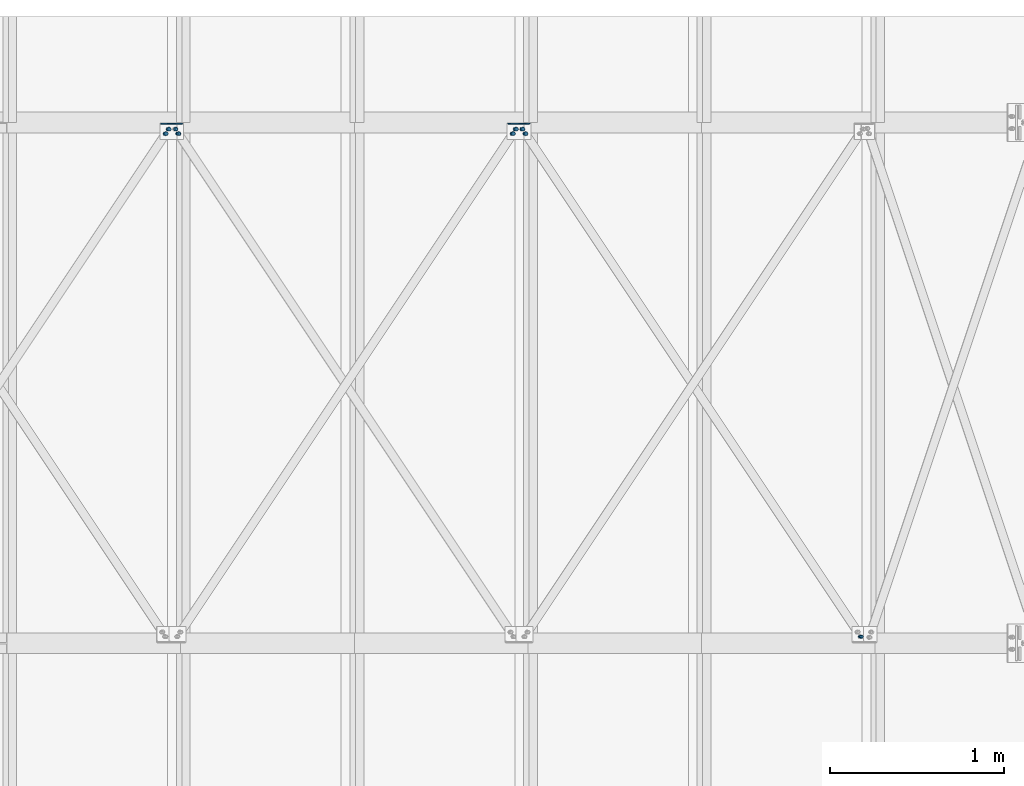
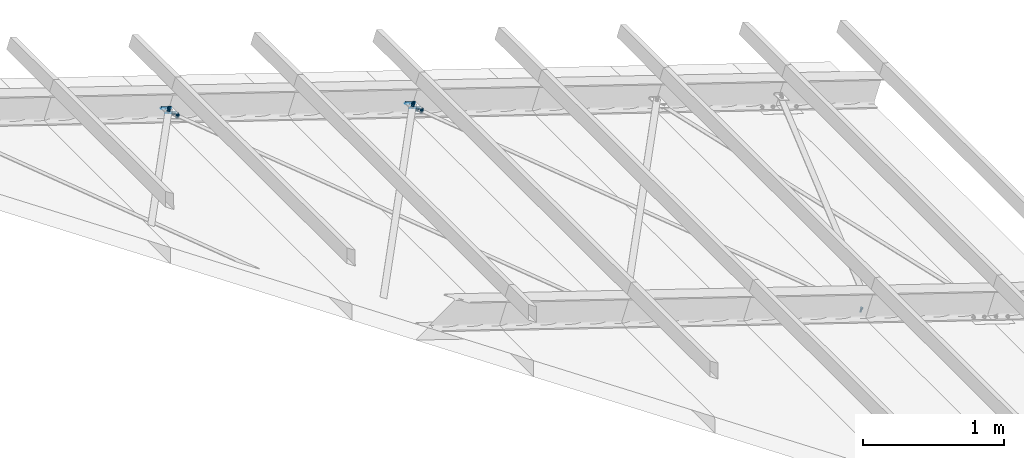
# One storey, part 46 of 53: 33 mechanical fasteners, 8 fasteners.
"""IFC4 building model written with IfcOpenShell, lengths in metres."""

from ifc_helpers import new_model, si_unit, frame, origin_with_axes, place, context, project, spatial, polyline, outline, extrude, type_object, element, save


model = new_model("IFC4")

# Units and contexts
model_context = context("Model", 3, precision=1e-05, world=origin_with_axes())
ifc_project = project(units=[si_unit("LENGTHUNIT", "METRE"), si_unit("AREAUNIT", "SQUARE_METRE"), si_unit("VOLUMEUNIT", "CUBIC_METRE"), si_unit("MASSUNIT", "GRAM", prefix="KILO"), si_unit("TIMEUNIT", "SECOND"), si_unit("PLANEANGLEUNIT", "RADIAN"), si_unit("SOLIDANGLEUNIT", "STERADIAN"), si_unit("THERMODYNAMICTEMPERATUREUNIT", "DEGREE_CELSIUS")], contexts=[model_context])

# Site, building, storey
placement_1 = place(None, origin_with_axes())
site = spatial("IfcSite", under=ifc_project, at=placement_1, Name="Italia", CompositionType="ELEMENT")
building = spatial("IfcBuilding", under=site, at=placement_1, Name="Capannone", CompositionType="ELEMENT")
storey_placement = place(None, frame((0.0, 0.0, 5.550000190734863), z_axis=(0.0, 0.0, 1.0), x_axis=(1.0, 0.0, 0.0)))
storey = spatial("IfcBuildingStorey", under=building, at=storey_placement, Name="Storey 1", CompositionType="ELEMENT", Elevation=5.550000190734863)

# Mechanical fasteners
mechanical_fastener_type_1 = type_object("IfcMechanicalFastenerType", Name="Collegamento -1056_-1090", PredefinedType="BOLT")
placement_2 = place(placement_1, origin_with_axes())
mechanical_fastener_1_placement = place(placement_2, origin_with_axes())
element("IfcMechanicalFastener", 1, at=mechanical_fastener_1_placement, inside=storey, type_object=mechanical_fastener_type_1, Name="Collegamento -1056_-1090", NominalDiameter=0.0119996, context=model_context, shape_type="SweptSolid", body=[
    extrude(outline(polyline([(0.0, 0.0), (-0.00982285, -0.00689316), (-0.00876427, -0.0188475), (0.0021162, -0.0239077), (0.011939, -0.0170145), (0.0108814, -0.0050602), (0.0, 0.0)])), frame((12.9829, 12.0369, 5.94999), z_axis=(0.312231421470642, 0.0, 0.950006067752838), x_axis=(0.0, 1.0, 0.0)), (0.0, 0.0, 1.0), 0.00959993),
])
mechanical_fastener_type_2 = type_object("IfcMechanicalFastenerType", Name="Collegamento -1056_-1090", PredefinedType="BOLT")
mechanical_fastener_2_placement = place(placement_2, origin_with_axes())
element("IfcMechanicalFastener", 2, at=mechanical_fastener_2_placement, inside=storey, type_object=mechanical_fastener_type_2, Name="Collegamento -1056_-1090", NominalDiameter=0.012, context=model_context, shape_type="SweptSolid", body=[
    extrude(outline(polyline([(0.0, 0.0), (-0.000204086, -0.00155354), (-0.000802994, -0.00300121), (-0.00175667, -0.0042429), (-0.00299931, -0.00519562), (-0.00444698, -0.00579548), (-0.00599957, -0.00600052), (-0.00755215, -0.00579548), (-0.00899982, -0.00519562), (-0.0102425, -0.0042429), (-0.0111961, -0.00300121), (-0.011795, -0.00155354), (-0.0119991, 0.0), (-0.011795, 0.00155258), (-0.0111961, 0.00300026), (-0.0102425, 0.00424194), (-0.00899982, 0.00519562), (-0.00755215, 0.00579548), (-0.00599957, 0.00599957), (-0.00444698, 0.00579548), (-0.00299931, 0.00519562), (-0.00175667, 0.00424194), (-0.000802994, 0.00300026), (-0.000204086, 0.00155258), (0.0, 0.0)])), frame((12.9855, 12.0439, 5.91965), z_axis=(0.312158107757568, 0.0, 0.950030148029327), x_axis=(0.0, 1.0, 0.0)), (0.0, 0.0, 1.0), 0.028),
])
mechanical_fastener_type_3 = type_object("IfcMechanicalFastenerType", Name="Collegamento -1090_-1056", PredefinedType="BOLT")
mechanical_fastener_3_placement = place(placement_2, origin_with_axes())
element("IfcMechanicalFastener", 3, at=mechanical_fastener_3_placement, inside=storey, type_object=mechanical_fastener_type_3, Name="Collegamento -1090_-1056", NominalDiameter=0.0119997, context=model_context, shape_type="SweptSolid", body=[
    extrude(outline(polyline([(0.0, 0.0), (-0.00982285, 0.00689316), (-0.0207043, 0.00183105), (-0.0217619, -0.0101223), (-0.011939, -0.0170155), (-0.00105858, -0.0119543), (0.0, 0.0)])), frame((11.0369, 14.9512, 6.57886), z_axis=(-0.312127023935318, 0.0, -0.950040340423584), x_axis=(0.0, -1.0, 0.0)), (0.0, 0.0, 1.0), 0.00960008),
])
mechanical_fastener_type_4 = type_object("IfcMechanicalFastenerType", Name="Collegamento -1090_-1056", PredefinedType="BOLT")
mechanical_fastener_4_placement = place(placement_2, origin_with_axes())
element("IfcMechanicalFastener", 4, at=mechanical_fastener_4_placement, inside=storey, type_object=mechanical_fastener_type_4, Name="Collegamento -1090_-1056", NominalDiameter=0.012, context=model_context, shape_type="SweptSolid", body=[
    extrude(outline(polyline([(0.0, 0.0), (-0.000204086, -0.00155354), (-0.000802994, -0.00300026), (-0.00175667, -0.00424194), (-0.00299931, -0.00519562), (-0.00444698, -0.00579548), (-0.00599957, -0.00599957), (-0.00755215, -0.00579548), (-0.00899982, -0.00519562), (-0.0102425, -0.00424194), (-0.0111961, -0.00300026), (-0.011795, -0.00155354), (-0.0119991, 0.0), (-0.011795, 0.00155354), (-0.0111961, 0.00300026), (-0.0102425, 0.00424194), (-0.00899982, 0.00519562), (-0.00755215, 0.00579548), (-0.00599957, 0.00599957), (-0.00444698, 0.00579548), (-0.00299931, 0.00519562), (-0.00175667, 0.00424194), (-0.000802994, 0.00300026), (-0.000204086, 0.00155354), (0.0, 0.0)])), frame((11.0504, 14.9561, 6.60389), z_axis=(-0.312127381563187, 0.0, -0.950040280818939), x_axis=(0.0, -1.0, 0.0)), (0.0, 0.0, 1.0), 0.0279997),
])
mechanical_fastener_type_5 = type_object("IfcMechanicalFastenerType", Name="Collegamento -1090_-1056", PredefinedType="BOLT")
mechanical_fastener_5_placement = place(placement_2, origin_with_axes())
element("IfcMechanicalFastener", 5, at=mechanical_fastener_5_placement, inside=storey, type_object=mechanical_fastener_type_5, Name="Collegamento -1090_-1056", NominalDiameter=0.0119997, context=model_context, shape_type="SweptSolid", body=[
    extrude(outline(polyline([(0.0, 0.0), (-0.00982285, 0.00689411), (-0.0207043, 0.00183392), (-0.0217619, -0.0101204), (-0.011939, -0.0170135), (-0.00105858, -0.0119534), (0.0, 0.0)])), frame((11.0436, 14.9512, 6.59939), z_axis=(-0.312127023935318, 0.0, -0.950040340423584), x_axis=(0.0, -1.0, 0.0)), (0.0, 0.0, 1.0), 0.00960008),
])
mechanical_fastener_type_6 = type_object("IfcMechanicalFastenerType", Name="Collegamento -1090_-1056", PredefinedType="BOLT")
mechanical_fastener_6_placement = place(placement_2, origin_with_axes())
element("IfcMechanicalFastener", 6, at=mechanical_fastener_6_placement, inside=storey, type_object=mechanical_fastener_type_6, Name="Collegamento -1090_-1056", NominalDiameter=0.024, context=model_context, shape_type="SweptSolid", body=[
    extrude(outline(polyline([(0.0, 0.0), (-0.000409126, -0.00310612), (-0.00160789, -0.00599957), (-0.00351524, -0.00848484), (-0.00600052, -0.0103922), (-0.00889397, -0.01159), (-0.0120001, -0.0120001), (-0.0151062, -0.01159), (-0.0179996, -0.0103922), (-0.0204849, -0.00848484), (-0.0223923, -0.00599957), (-0.023591, -0.00310612), (-0.0240002, 0.0), (-0.023591, 0.00310612), (-0.0223923, 0.00600052), (-0.0204849, 0.00848484), (-0.0179996, 0.0103922), (-0.0151062, 0.011591), (-0.0120001, 0.0120001), (-0.00889397, 0.011591), (-0.00600052, 0.0103922), (-0.00351524, 0.00848484), (-0.00160789, 0.00600052), (-0.000409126, 0.00310612), (0.0, 0.0)])), frame((11.0454, 14.9501, 6.58869), z_axis=(-0.312362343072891, 0.0, -0.94996303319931), x_axis=(0.0, -1.0, 0.0)), (0.0, 0.0, 1.0), 0.00199978),
])
mechanical_fastener_type_7 = type_object("IfcMechanicalFastenerType", Name="Collegamento -1090_-1056", PredefinedType="BOLT")
mechanical_fastener_7_placement = place(placement_2, origin_with_axes())
element("IfcMechanicalFastener", 7, at=mechanical_fastener_7_placement, inside=storey, type_object=mechanical_fastener_type_7, Name="Collegamento -1090_-1056", NominalDiameter=0.0119997, context=model_context, shape_type="SweptSolid", body=[
    extrude(outline(polyline([(0.0, 0.0), (-0.00982285, 0.00689411), (-0.0207033, 0.00183296), (-0.0217619, -0.0101204), (-0.011939, -0.0170135), (-0.00105762, -0.0119534), (0.0, 0.0)])), frame((11.0543, 14.925, 6.57313), z_axis=(-0.312127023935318, 0.0, -0.950040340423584), x_axis=(0.0, -1.0, 0.0)), (0.0, 0.0, 1.0), 0.00960008),
])
mechanical_fastener_type_8 = type_object("IfcMechanicalFastenerType", Name="Collegamento -1090_-1056", PredefinedType="BOLT")
mechanical_fastener_8_placement = place(placement_2, origin_with_axes())
element("IfcMechanicalFastener", 8, at=mechanical_fastener_8_placement, inside=storey, type_object=mechanical_fastener_type_8, Name="Collegamento -1090_-1056", NominalDiameter=0.012, context=model_context, shape_type="SweptSolid", body=[
    extrude(outline(polyline([(0.0, 0.0), (-0.000204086, -0.00155354), (-0.000802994, -0.00300121), (-0.00175667, -0.0042429), (-0.00299931, -0.00519657), (-0.00444698, -0.00579548), (-0.00599957, -0.00600052), (-0.00755215, -0.00579548), (-0.00899982, -0.00519657), (-0.0102425, -0.0042429), (-0.0111961, -0.00300121), (-0.011795, -0.00155354), (-0.0119991, 0.0), (-0.011795, 0.00155163), (-0.0111961, 0.00299931), (-0.0102425, 0.00424194), (-0.00899982, 0.00519562), (-0.00755215, 0.00579453), (-0.00599957, 0.00599957), (-0.00444698, 0.00579453), (-0.00299931, 0.00519562), (-0.00175667, 0.00424194), (-0.000802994, 0.00299931), (-0.000204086, 0.00155163), (0.0, 0.0)])), frame((11.0679, 14.9299, 6.59815), z_axis=(-0.312158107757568, 0.0, -0.950030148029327), x_axis=(0.0, -1.0, 0.0)), (0.0, 0.0, 1.0), 0.028),
])
mechanical_fastener_type_9 = type_object("IfcMechanicalFastenerType", Name="Collegamento -1090_-1056", PredefinedType="BOLT")
mechanical_fastener_9_placement = place(placement_2, origin_with_axes())
element("IfcMechanicalFastener", 9, at=mechanical_fastener_9_placement, inside=storey, type_object=mechanical_fastener_type_9, Name="Collegamento -1090_-1056", NominalDiameter=0.0119997, context=model_context, shape_type="SweptSolid", body=[
    extrude(outline(polyline([(0.0, 0.0), (-0.00982285, 0.00689316), (-0.0207033, 0.00183201), (-0.0217619, -0.0101213), (-0.011939, -0.0170145), (-0.00105762, -0.0119543), (0.0, 0.0)])), frame((11.0611, 14.925, 6.59365), z_axis=(-0.312127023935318, 0.0, -0.950040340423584), x_axis=(0.0, -1.0, 0.0)), (0.0, 0.0, 1.0), 0.00960008),
])
mechanical_fastener_type_10 = type_object("IfcMechanicalFastenerType", Name="Collegamento -1090_-1056", PredefinedType="BOLT")
mechanical_fastener_10_placement = place(placement_2, origin_with_axes())
element("IfcMechanicalFastener", 10, at=mechanical_fastener_10_placement, inside=storey, type_object=mechanical_fastener_type_10, Name="Collegamento -1090_-1056", NominalDiameter=0.024, context=model_context, shape_type="SweptSolid", body=[
    extrude(outline(polyline([(0.0, 0.0), (-0.000409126, -0.00310612), (-0.00160789, -0.00600052), (-0.00351524, -0.00848579), (-0.00600052, -0.0103931), (-0.00889397, -0.0115919), (-0.0120001, -0.0120001), (-0.0151062, -0.0115919), (-0.0179996, -0.0103931), (-0.0204849, -0.00848579), (-0.0223923, -0.00600052), (-0.023591, -0.00310612), (-0.0240002, 0.0), (-0.023591, 0.00310516), (-0.0223923, 0.00599957), (-0.0204849, 0.00848484), (-0.0179996, 0.0103912), (-0.0151062, 0.0115919), (-0.0120001, 0.0119991), (-0.00889397, 0.0115919), (-0.00600052, 0.0103912), (-0.00351524, 0.00848484), (-0.00160789, 0.00599957), (-0.000409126, 0.00310516), (0.0, 0.0)])), frame((11.0629, 14.9239, 6.58295), z_axis=(-0.312220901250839, 0.0, -0.950009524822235), x_axis=(0.0, -1.0, 0.0)), (0.0, 0.0, 1.0), 0.00200069),
])

# Fasteners
fastener_type_1 = type_object("IfcFastenerType", Name="Collegamento -1090_-1056", PredefinedType="WELD")
fastener_1_placement = place(placement_2, origin_with_axes())
element("IfcFastener", 11, at=fastener_1_placement, inside=storey, type_object=fastener_type_1, Name="Collegamento -1090_-1056", context=model_context, shape_type="SweptSolid", body=[
    extrude(outline(polyline([(0.0, 0.0), (0.00717258, -0.00695801), (0.0, -0.00695801), (0.0, 0.0)])), frame((11.0878, 14.9969, 6.57467), z_axis=(-0.950032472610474, 0.0, 0.312151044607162), x_axis=(0.0, -1.0, 0.0)), (0.0, 0.0, 1.0), 0.0881034),
])
fastener_type_2 = type_object("IfcFastenerType", Name="Collegamento -1090_-1056", PredefinedType="WELD")
fastener_2_placement = place(placement_2, origin_with_axes())
element("IfcFastener", 12, at=fastener_2_placement, inside=storey, type_object=fastener_type_2, Name="Collegamento -1090_-1056", context=model_context, shape_type="SweptSolid", body=[
    extrude(outline(polyline([(0.0, 0.0), (-0.00717258, 0.00695801), (0.0, 0.00695801), (0.0, 0.0)])), frame((10.9982, 14.9969, 6.5843), z_axis=(0.950030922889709, 0.0, -0.312155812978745), x_axis=(0.0, 1.0, 0.0)), (0.0, 0.0, 1.0), 0.0881006),
])

# Mechanical fasteners
mechanical_fastener_type_11 = type_object("IfcMechanicalFastenerType", Name="Collegamento -1090_-1120", PredefinedType="BOLT")
mechanical_fastener_11_placement = place(placement_2, origin_with_axes())
element("IfcMechanicalFastener", 13, at=mechanical_fastener_11_placement, inside=storey, type_object=mechanical_fastener_type_11, Name="Collegamento -1090_-1120", NominalDiameter=0.0119995, context=model_context, shape_type="SweptSolid", body=[
    extrude(outline(polyline([(0.0, 0.0), (-0.00982285, -0.00689316), (-0.00876427, -0.0188456), (0.0021162, -0.0239058), (0.011939, -0.0170135), (0.0108814, -0.0050602), (0.0, 0.0)])), frame((10.9922, 14.9631, 6.63563), z_axis=(-0.312141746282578, 0.0, -0.950035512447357), x_axis=(0.0, -1.0, 0.0)), (0.0, 0.0, 1.0), 0.00959963),
])
mechanical_fastener_type_12 = type_object("IfcMechanicalFastenerType", Name="Collegamento -1090_-1120", PredefinedType="BOLT")
mechanical_fastener_12_placement = place(placement_2, origin_with_axes())
element("IfcMechanicalFastener", 14, at=mechanical_fastener_12_placement, inside=storey, type_object=mechanical_fastener_type_12, Name="Collegamento -1090_-1120", NominalDiameter=0.012, context=model_context, shape_type="SweptSolid", body=[
    extrude(outline(polyline([(0.0, 0.0), (-0.000204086, -0.00155258), (-0.000802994, -0.00300026), (-0.00175667, -0.00424194), (-0.00299931, -0.00519562), (-0.00444698, -0.00579453), (-0.00599957, -0.00599957), (-0.00755215, -0.00579453), (-0.00899982, -0.00519562), (-0.0102425, -0.00424194), (-0.0111961, -0.00300026), (-0.011795, -0.00155258), (-0.0119991, 0.0), (-0.011795, 0.00155258), (-0.0111961, 0.00300026), (-0.0102425, 0.00424194), (-0.00899982, 0.00519657), (-0.00755215, 0.00579548), (-0.00599957, 0.00600052), (-0.00444698, 0.00579548), (-0.00299931, 0.00519657), (-0.00175667, 0.00424194), (-0.000802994, 0.00300026), (-0.000204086, 0.00155258), (0.0, 0.0)])), frame((11.0123, 14.9561, 6.6585), z_axis=(-0.312127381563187, 0.0, -0.950040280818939), x_axis=(0.0, -1.0, 0.0)), (0.0, 0.0, 1.0), 0.0279997),
])
mechanical_fastener_type_13 = type_object("IfcMechanicalFastenerType", Name="Collegamento -1090_-1120", PredefinedType="BOLT")
mechanical_fastener_13_placement = place(placement_2, origin_with_axes())
element("IfcMechanicalFastener", 15, at=mechanical_fastener_13_placement, inside=storey, type_object=mechanical_fastener_type_13, Name="Collegamento -1090_-1120", NominalDiameter=0.0119995, context=model_context, shape_type="SweptSolid", body=[
    extrude(outline(polyline([(0.0, 0.0), (-0.00982285, -0.00689316), (-0.00876427, -0.0188456), (0.0021162, -0.0239058), (0.011939, -0.0170135), (0.0108814, -0.00505924), (0.0, 0.0)])), frame((10.999, 14.9631, 6.65615), z_axis=(-0.312141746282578, 0.0, -0.950035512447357), x_axis=(0.0, -1.0, 0.0)), (0.0, 0.0, 1.0), 0.00959963),
])
mechanical_fastener_type_14 = type_object("IfcMechanicalFastenerType", Name="Collegamento -1090_-1120", PredefinedType="BOLT")
mechanical_fastener_14_placement = place(placement_2, origin_with_axes())
element("IfcMechanicalFastener", 16, at=mechanical_fastener_14_placement, inside=storey, type_object=mechanical_fastener_type_14, Name="Collegamento -1090_-1120", NominalDiameter=0.024, context=model_context, shape_type="SweptSolid", body=[
    extrude(outline(polyline([(0.0, 0.0), (-0.000409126, -0.00310612), (-0.00160789, -0.00600052), (-0.00351524, -0.00848579), (-0.00600052, -0.0103912), (-0.00889397, -0.011591), (-0.0120001, -0.0120001), (-0.0151062, -0.011591), (-0.0179996, -0.0103912), (-0.0204849, -0.00848579), (-0.0223923, -0.00600052), (-0.023591, -0.00310612), (-0.0240002, 0.0), (-0.023591, 0.00310612), (-0.0223923, 0.00599957), (-0.0204849, 0.00848484), (-0.0179996, 0.0103922), (-0.0151062, 0.011591), (-0.0120001, 0.0120001), (-0.00889397, 0.011591), (-0.00600052, 0.0103922), (-0.00351524, 0.00848484), (-0.00160789, 0.00599957), (-0.000409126, 0.00310612), (0.0, 0.0)])), frame((11.0073, 14.9501, 6.6433), z_axis=(-0.312792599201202, 0.0, -0.949821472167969), x_axis=(0.0, -1.0, 0.0)), (0.0, 0.0, 1.0), 0.00200008),
])
mechanical_fastener_type_15 = type_object("IfcMechanicalFastenerType", Name="Collegamento -1090_-1120", PredefinedType="BOLT")
mechanical_fastener_15_placement = place(placement_2, origin_with_axes())
element("IfcMechanicalFastener", 17, at=mechanical_fastener_15_placement, inside=storey, type_object=mechanical_fastener_type_15, Name="Collegamento -1090_-1120", NominalDiameter=0.0119994, context=model_context, shape_type="SweptSolid", body=[
    extrude(outline(polyline([(0.0, 0.0), (-0.00982285, -0.00689316), (-0.00876522, -0.0188456), (0.0021162, -0.0239058), (0.011939, -0.0170135), (0.0108805, -0.0050602), (0.0, 0.0)])), frame((10.9748, 14.9369, 6.64137), z_axis=(-0.312141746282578, 0.0, -0.950035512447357), x_axis=(0.0, -1.0, 0.0)), (0.0, 0.0, 1.0), 0.00959963),
])
mechanical_fastener_type_16 = type_object("IfcMechanicalFastenerType", Name="Collegamento -1090_-1120", PredefinedType="BOLT")
mechanical_fastener_16_placement = place(placement_2, origin_with_axes())
element("IfcMechanicalFastener", 18, at=mechanical_fastener_16_placement, inside=storey, type_object=mechanical_fastener_type_16, Name="Collegamento -1090_-1120", NominalDiameter=0.012, context=model_context, shape_type="SweptSolid", body=[
    extrude(outline(polyline([(0.0, 0.0), (-0.000204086, -0.00155258), (-0.000802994, -0.00300026), (-0.00175667, -0.00424194), (-0.00299931, -0.00519562), (-0.00444698, -0.00579453), (-0.00599957, -0.00600052), (-0.00755215, -0.00579453), (-0.00899982, -0.00519562), (-0.0102425, -0.00424194), (-0.0111961, -0.00300026), (-0.011795, -0.00155258), (-0.0119991, 0.0), (-0.011795, 0.00155258), (-0.0111961, 0.00300026), (-0.0102425, 0.00424194), (-0.00899982, 0.00519657), (-0.00755215, 0.00579548), (-0.00599957, 0.00600052), (-0.00444698, 0.00579548), (-0.00299931, 0.00519657), (-0.00175667, 0.00424194), (-0.000802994, 0.00300026), (-0.000204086, 0.00155258), (0.0, 0.0)])), frame((10.9949, 14.9299, 6.66424), z_axis=(-0.312188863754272, 0.0, -0.95002007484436), x_axis=(0.0, -1.0, 0.0)), (0.0, 0.0, 1.0), 0.0280003),
])
mechanical_fastener_type_17 = type_object("IfcMechanicalFastenerType", Name="Collegamento -1090_-1120", PredefinedType="BOLT")
mechanical_fastener_17_placement = place(placement_2, origin_with_axes())
element("IfcMechanicalFastener", 19, at=mechanical_fastener_17_placement, inside=storey, type_object=mechanical_fastener_type_17, Name="Collegamento -1090_-1120", NominalDiameter=0.0119994, context=model_context, shape_type="SweptSolid", body=[
    extrude(outline(polyline([(0.0, 0.0), (-0.00982285, -0.00689316), (-0.00876522, -0.0188456), (0.0021162, -0.0239058), (0.011939, -0.0170135), (0.0108805, -0.00505924), (0.0, 0.0)])), frame((10.9815, 14.9369, 6.66189), z_axis=(-0.312141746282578, 0.0, -0.950035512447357), x_axis=(0.0, -1.0, 0.0)), (0.0, 0.0, 1.0), 0.00959963),
])
mechanical_fastener_type_18 = type_object("IfcMechanicalFastenerType", Name="Collegamento -1090_-1120", PredefinedType="BOLT")
mechanical_fastener_18_placement = place(placement_2, origin_with_axes())
element("IfcMechanicalFastener", 20, at=mechanical_fastener_18_placement, inside=storey, type_object=mechanical_fastener_type_18, Name="Collegamento -1090_-1120", NominalDiameter=0.024, context=model_context, shape_type="SweptSolid", body=[
    extrude(outline(polyline([(0.0, 0.0), (-0.000409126, -0.00310516), (-0.00160789, -0.00600052), (-0.00351524, -0.00848579), (-0.00600052, -0.0103931), (-0.00889397, -0.011591), (-0.0120001, -0.0119991), (-0.0151062, -0.011591), (-0.0179996, -0.0103931), (-0.0204849, -0.00848579), (-0.0223923, -0.00600052), (-0.023591, -0.00310516), (-0.0240002, 0.0), (-0.023591, 0.00310612), (-0.0223923, 0.00600052), (-0.0204849, 0.00848579), (-0.0179996, 0.0103922), (-0.0151062, 0.011591), (-0.0120001, 0.0120001), (-0.00889397, 0.011591), (-0.00600052, 0.0103922), (-0.00351524, 0.00848579), (-0.00160789, 0.00600052), (-0.000409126, 0.00310612), (0.0, 0.0)])), frame((10.9899, 14.9239, 6.64904), z_axis=(-0.311861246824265, 0.0, -0.95012766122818), x_axis=(0.0, -1.0, 0.0)), (0.0, 0.0, 1.0), 0.00199994),
])

# Fasteners
fastener_type_3 = type_object("IfcFastenerType", Name="Collegamento -1090_-1120", PredefinedType="WELD")
fastener_3_placement = place(placement_2, origin_with_axes())
element("IfcFastener", 21, at=fastener_3_placement, inside=storey, type_object=fastener_type_3, Name="Collegamento -1090_-1120", context=model_context, shape_type="SweptSolid", body=[
    extrude(outline(polyline([(0.0, 0.0), (0.00717258, -0.00695801), (0.0, -0.00695801), (0.0, 0.0)])), frame((11.0486, 14.9969, 6.62964), z_axis=(-0.950034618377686, 0.0, 0.312144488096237), x_axis=(0.0, -1.0, 0.0)), (0.0, 0.0, 1.0), 0.0881022),
])
fastener_type_4 = type_object("IfcFastenerType", Name="Collegamento -1090_-1120", PredefinedType="WELD")
fastener_4_placement = place(placement_2, origin_with_axes())
element("IfcFastener", 22, at=fastener_4_placement, inside=storey, type_object=fastener_type_4, Name="Collegamento -1090_-1120", context=model_context, shape_type="SweptSolid", body=[
    extrude(outline(polyline([(0.0, 0.0), (-0.00717258, 0.00695801), (0.0, 0.00695801), (0.0, 0.0)])), frame((10.9591, 14.9969, 6.63926), z_axis=(0.950031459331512, 0.0, -0.31215426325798), x_axis=(0.0, 1.0, 0.0)), (0.0, 0.0, 1.0), 0.0881025),
])

# Mechanical fasteners
mechanical_fastener_type_19 = type_object("IfcMechanicalFastenerType", Name="Collegamento -1122_-1088", PredefinedType="BOLT")
mechanical_fastener_19_placement = place(placement_2, origin_with_axes())
element("IfcMechanicalFastener", 23, at=mechanical_fastener_19_placement, inside=storey, type_object=mechanical_fastener_type_19, Name="Collegamento -1122_-1088", NominalDiameter=0.012, context=model_context, shape_type="SweptSolid", body=[
    extrude(outline(polyline([(0.0, 0.0), (-0.000204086, -0.0015521), (-0.000802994, -0.00299978), (-0.00175667, -0.00424147), (-0.00299931, -0.00519562), (-0.00444698, -0.00579453), (-0.00599957, -0.00599957), (-0.00755215, -0.00579453), (-0.00899982, -0.00519562), (-0.0102425, -0.00424147), (-0.0111961, -0.00299978), (-0.011795, -0.0015521), (-0.0119991, 0.0), (-0.011795, 0.00155306), (-0.0111961, 0.00300074), (-0.0102425, 0.00424242), (-0.00899982, 0.00519657), (-0.00755215, 0.00579596), (-0.00599957, 0.006001), (-0.00444698, 0.00579596), (-0.00299931, 0.00519657), (-0.00175667, 0.00424242), (-0.000802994, 0.00300074), (-0.000204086, 0.00155306), (0.0, 0.0)])), frame((9.05041, 14.9561, 7.26103), z_axis=(-0.312158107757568, 0.0, -0.950030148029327), x_axis=(0.0, -1.0, 0.0)), (0.0, 0.0, 1.0), 0.028),
])
mechanical_fastener_type_20 = type_object("IfcMechanicalFastenerType", Name="Collegamento -1122_-1088", PredefinedType="BOLT")
mechanical_fastener_20_placement = place(placement_2, origin_with_axes())
element("IfcMechanicalFastener", 24, at=mechanical_fastener_20_placement, inside=storey, type_object=mechanical_fastener_type_20, Name="Collegamento -1122_-1088", NominalDiameter=0.0119995, context=model_context, shape_type="SweptSolid", body=[
    extrude(outline(polyline([(0.0, 0.0), (-0.00982285, 0.0068922), (-0.0207033, 0.00183201), (-0.0217619, -0.0101204), (-0.011939, -0.0170135), (-0.00105762, -0.0119538), (0.0, 0.0)])), frame((9.0436, 14.9512, 7.25653), z_axis=(-0.312141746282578, 0.0, -0.950035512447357), x_axis=(0.0, -1.0, 0.0)), (0.0, 0.0, 1.0), 0.00959963),
])
mechanical_fastener_type_21 = type_object("IfcMechanicalFastenerType", Name="Collegamento -1122_-1088", PredefinedType="BOLT")
mechanical_fastener_21_placement = place(placement_2, origin_with_axes())
element("IfcMechanicalFastener", 25, at=mechanical_fastener_21_placement, inside=storey, type_object=mechanical_fastener_type_21, Name="Collegamento -1122_-1088", NominalDiameter=0.024, context=model_context, shape_type="SweptSolid", body=[
    extrude(outline(polyline([(0.0, 0.0), (-0.000409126, -0.00310516), (-0.00160789, -0.00599957), (-0.00351524, -0.00848579), (-0.00600052, -0.0103912), (-0.00889397, -0.011591), (-0.0120001, -0.0119991), (-0.0151062, -0.011591), (-0.0179996, -0.0103912), (-0.0204849, -0.00848579), (-0.0223923, -0.00599957), (-0.023591, -0.00310516), (-0.0240002, 0.0), (-0.023591, 0.00310612), (-0.0223923, 0.00600052), (-0.0204849, 0.00848675), (-0.0179996, 0.0103922), (-0.0151062, 0.0115919), (-0.0120001, 0.0120001), (-0.00889397, 0.0115919), (-0.00600052, 0.0103922), (-0.00351524, 0.00848675), (-0.00160789, 0.00600052), (-0.000409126, 0.00310612), (0.0, 0.0)])), frame((9.04542, 14.9501, 7.24583), z_axis=(-0.311931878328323, 0.0, -0.950104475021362), x_axis=(0.0, -1.0, 0.0)), (0.0, 0.0, 1.0), 0.00199948),
])
mechanical_fastener_type_22 = type_object("IfcMechanicalFastenerType", Name="Collegamento -1122_-1088", PredefinedType="BOLT")
mechanical_fastener_22_placement = place(placement_2, origin_with_axes())
element("IfcMechanicalFastener", 26, at=mechanical_fastener_22_placement, inside=storey, type_object=mechanical_fastener_type_22, Name="Collegamento -1122_-1088", NominalDiameter=0.0119994, context=model_context, shape_type="SweptSolid", body=[
    extrude(outline(polyline([(0.0, 0.0), (-0.00982285, 0.00689316), (-0.0207043, 0.00183201), (-0.0217619, -0.0101209), (-0.011939, -0.0170135), (-0.00105858, -0.0119534), (0.0, 0.0)])), frame((9.05433, 14.925, 7.23027), z_axis=(-0.312141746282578, 0.0, -0.950035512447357), x_axis=(0.0, -1.0, 0.0)), (0.0, 0.0, 1.0), 0.00959963),
])
mechanical_fastener_type_23 = type_object("IfcMechanicalFastenerType", Name="Collegamento -1122_-1088", PredefinedType="BOLT")
mechanical_fastener_23_placement = place(placement_2, origin_with_axes())
element("IfcMechanicalFastener", 27, at=mechanical_fastener_23_placement, inside=storey, type_object=mechanical_fastener_type_23, Name="Collegamento -1122_-1088", NominalDiameter=0.012, context=model_context, shape_type="SweptSolid", body=[
    extrude(outline(polyline([(0.0, 0.0), (-0.000204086, -0.00155306), (-0.000802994, -0.00300074), (-0.00175667, -0.00424242), (-0.00299931, -0.00519609), (-0.00444698, -0.00579548), (-0.00599957, -0.00600004), (-0.00755215, -0.00579548), (-0.00899982, -0.00519609), (-0.0102425, -0.00424242), (-0.0111961, -0.00300074), (-0.011795, -0.00155306), (-0.0119991, 0.0), (-0.011795, 0.0015521), (-0.0111961, 0.00299978), (-0.0102425, 0.00424242), (-0.00899982, 0.00519514), (-0.00755215, 0.00579453), (-0.00599957, 0.00599909), (-0.00444698, 0.00579453), (-0.00299931, 0.00519514), (-0.00175667, 0.00424242), (-0.000802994, 0.00299978), (-0.000204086, 0.0015521), (0.0, 0.0)])), frame((9.06787, 14.9299, 7.25529), z_axis=(-0.312127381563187, 0.0, -0.950040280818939), x_axis=(0.0, -1.0, 0.0)), (0.0, 0.0, 1.0), 0.0279997),
])
mechanical_fastener_type_24 = type_object("IfcMechanicalFastenerType", Name="Collegamento -1122_-1088", PredefinedType="BOLT")
mechanical_fastener_24_placement = place(placement_2, origin_with_axes())
element("IfcMechanicalFastener", 28, at=mechanical_fastener_24_placement, inside=storey, type_object=mechanical_fastener_type_24, Name="Collegamento -1122_-1088", NominalDiameter=0.0119994, context=model_context, shape_type="SweptSolid", body=[
    extrude(outline(polyline([(0.0, 0.0), (-0.00982285, 0.0068922), (-0.0207043, 0.00183201), (-0.0217619, -0.0101204), (-0.011939, -0.0170135), (-0.00105858, -0.0119538), (0.0, 0.0)])), frame((9.06107, 14.925, 7.25079), z_axis=(-0.312141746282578, 0.0, -0.950035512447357), x_axis=(0.0, -1.0, 0.0)), (0.0, 0.0, 1.0), 0.00959963),
])
mechanical_fastener_type_25 = type_object("IfcMechanicalFastenerType", Name="Collegamento -1122_-1088", PredefinedType="BOLT")
mechanical_fastener_25_placement = place(placement_2, origin_with_axes())
element("IfcMechanicalFastener", 29, at=mechanical_fastener_25_placement, inside=storey, type_object=mechanical_fastener_type_25, Name="Collegamento -1122_-1088", NominalDiameter=0.024, context=model_context, shape_type="SweptSolid", body=[
    extrude(outline(polyline([(0.0, 0.0), (-0.000409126, -0.00310612), (-0.00160789, -0.00600052), (-0.00351524, -0.00848579), (-0.00600052, -0.0103922), (-0.00889397, -0.011591), (-0.0120001, -0.0120001), (-0.0151062, -0.011591), (-0.0179996, -0.0103922), (-0.0204849, -0.00848579), (-0.0223923, -0.00600052), (-0.023591, -0.00310612), (-0.0240002, 0.0), (-0.023591, 0.00310612), (-0.0223923, 0.00600052), (-0.0204849, 0.00848579), (-0.0179996, 0.0103922), (-0.0151062, 0.0115914), (-0.0120001, 0.0120001), (-0.00889397, 0.0115914), (-0.00600052, 0.0103922), (-0.00351524, 0.00848579), (-0.00160789, 0.00600052), (-0.000409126, 0.00310612), (0.0, 0.0)])), frame((9.06288, 14.9239, 7.24009), z_axis=(-0.312220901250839, 0.0, -0.950009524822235), x_axis=(0.0, -1.0, 0.0)), (0.0, 0.0, 1.0), 0.00200069),
])

# Fasteners
fastener_type_5 = type_object("IfcFastenerType", Name="Collegamento -1122_-1088", PredefinedType="WELD")
fastener_5_placement = place(placement_2, origin_with_axes())
element("IfcFastener", 30, at=fastener_5_placement, inside=storey, type_object=fastener_type_5, Name="Collegamento -1122_-1088", context=model_context, shape_type="SweptSolid", body=[
    extrude(outline(polyline([(0.0, 0.0), (0.00717258, -0.00695801), (0.0, -0.00695801), (0.0, 0.0)])), frame((9.08777, 14.9969, 7.23181), z_axis=(-0.950031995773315, 0.0, 0.312152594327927), x_axis=(0.0, -1.0, 0.0)), (0.0, 0.0, 1.0), 0.0881015),
])
fastener_type_6 = type_object("IfcFastenerType", Name="Collegamento -1122_-1088", PredefinedType="WELD")
fastener_6_placement = place(placement_2, origin_with_axes())
element("IfcFastener", 31, at=fastener_6_placement, inside=storey, type_object=fastener_type_6, Name="Collegamento -1122_-1088", context=model_context, shape_type="SweptSolid", body=[
    extrude(outline(polyline([(0.0, 0.0), (-0.00717258, 0.00695801), (0.0, 0.00695801), (0.0, 0.0)])), frame((8.9982, 14.9969, 7.24144), z_axis=(0.95003205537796, 0.0, -0.312152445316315), x_axis=(0.0, 1.0, 0.0)), (0.0, 0.0, 1.0), 0.0880985),
])

# Mechanical fasteners
mechanical_fastener_type_26 = type_object("IfcMechanicalFastenerType", Name="Collegamento -1122_-1146", PredefinedType="BOLT")
mechanical_fastener_26_placement = place(placement_2, origin_with_axes())
element("IfcMechanicalFastener", 32, at=mechanical_fastener_26_placement, inside=storey, type_object=mechanical_fastener_type_26, Name="Collegamento -1122_-1146", NominalDiameter=0.0119995, context=model_context, shape_type="SweptSolid", body=[
    extrude(outline(polyline([(0.0, 0.0), (-0.00982285, -0.0068922), (-0.00876522, -0.018846), (0.0021162, -0.0239062), (0.011939, -0.0170126), (0.0108805, -0.0050602), (0.0, 0.0)])), frame((8.99224, 14.9631, 7.29277), z_axis=(-0.312141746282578, 0.0, -0.950035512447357), x_axis=(0.0, -1.0, 0.0)), (0.0, 0.0, 1.0), 0.00959963),
])
mechanical_fastener_type_27 = type_object("IfcMechanicalFastenerType", Name="Collegamento -1122_-1146", PredefinedType="BOLT")
mechanical_fastener_27_placement = place(placement_2, origin_with_axes())
element("IfcMechanicalFastener", 33, at=mechanical_fastener_27_placement, inside=storey, type_object=mechanical_fastener_type_27, Name="Collegamento -1122_-1146", NominalDiameter=0.012, context=model_context, shape_type="SweptSolid", body=[
    extrude(outline(polyline([(0.0, 0.0), (-0.000204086, -0.00155258), (-0.000802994, -0.00300026), (-0.00175667, -0.00424242), (-0.00299931, -0.00519562), (-0.00444698, -0.00579453), (-0.00599957, -0.00599957), (-0.00755215, -0.00579453), (-0.00899982, -0.00519562), (-0.0102425, -0.00424242), (-0.0111961, -0.00300026), (-0.011795, -0.00155258), (-0.0119991, 0.0), (-0.011795, 0.00155306), (-0.0111961, 0.00300074), (-0.0102425, 0.00424194), (-0.00899982, 0.00519657), (-0.00755215, 0.00579548), (-0.00599957, 0.00600052), (-0.00444698, 0.00579548), (-0.00299931, 0.00519657), (-0.00175667, 0.00424194), (-0.000802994, 0.00300074), (-0.000204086, 0.00155306), (0.0, 0.0)])), frame((9.01233, 14.9561, 7.31564), z_axis=(-0.312158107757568, 0.0, -0.950030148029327), x_axis=(0.0, -1.0, 0.0)), (0.0, 0.0, 1.0), 0.028),
])
mechanical_fastener_type_28 = type_object("IfcMechanicalFastenerType", Name="Collegamento -1122_-1146", PredefinedType="BOLT")
mechanical_fastener_28_placement = place(placement_2, origin_with_axes())
element("IfcMechanicalFastener", 34, at=mechanical_fastener_28_placement, inside=storey, type_object=mechanical_fastener_type_28, Name="Collegamento -1122_-1146", NominalDiameter=0.0119995, context=model_context, shape_type="SweptSolid", body=[
    extrude(outline(polyline([(0.0, 0.0), (-0.00982285, -0.00689268), (-0.00876522, -0.018846), (0.0021162, -0.0239062), (0.011939, -0.0170131), (0.0108805, -0.0050602), (0.0, 0.0)])), frame((8.99898, 14.9631, 7.31329), z_axis=(-0.312141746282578, 0.0, -0.950035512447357), x_axis=(0.0, -1.0, 0.0)), (0.0, 0.0, 1.0), 0.00959963),
])
mechanical_fastener_type_29 = type_object("IfcMechanicalFastenerType", Name="Collegamento -1122_-1146", PredefinedType="BOLT")
mechanical_fastener_29_placement = place(placement_2, origin_with_axes())
element("IfcMechanicalFastener", 35, at=mechanical_fastener_29_placement, inside=storey, type_object=mechanical_fastener_type_29, Name="Collegamento -1122_-1146", NominalDiameter=0.024, context=model_context, shape_type="SweptSolid", body=[
    extrude(outline(polyline([(0.0, 0.0), (-0.000409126, -0.00310612), (-0.00160789, -0.00600052), (-0.00351524, -0.00848484), (-0.00600052, -0.0103927), (-0.00889397, -0.011591), (-0.0120001, -0.0120006), (-0.0151062, -0.011591), (-0.0179996, -0.0103927), (-0.0204849, -0.00848484), (-0.0223923, -0.00600052), (-0.023591, -0.00310612), (-0.0240002, 0.0), (-0.023591, 0.00310564), (-0.0223923, 0.00599957), (-0.0204849, 0.00848579), (-0.0179996, 0.0103922), (-0.0151062, 0.011591), (-0.0120001, 0.0120001), (-0.00889397, 0.011591), (-0.00600052, 0.0103922), (-0.00351524, 0.00848579), (-0.00160789, 0.00599957), (-0.000409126, 0.00310564), (0.0, 0.0)])), frame((9.00734, 14.9501, 7.30044), z_axis=(-0.311790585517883, 0.0, -0.950150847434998), x_axis=(0.0, -1.0, 0.0)), (0.0, 0.0, 1.0), 0.00200039),
])
mechanical_fastener_type_30 = type_object("IfcMechanicalFastenerType", Name="Collegamento -1122_-1146", PredefinedType="BOLT")
mechanical_fastener_30_placement = place(placement_2, origin_with_axes())
element("IfcMechanicalFastener", 36, at=mechanical_fastener_30_placement, inside=storey, type_object=mechanical_fastener_type_30, Name="Collegamento -1122_-1146", NominalDiameter=0.0119994, context=model_context, shape_type="SweptSolid", body=[
    extrude(outline(polyline([(0.0, 0.0), (-0.00982285, -0.0068922), (-0.00876427, -0.018846), (0.0021162, -0.0239062), (0.011939, -0.0170126), (0.0108814, -0.0050602), (0.0, 0.0)])), frame((8.97477, 14.9369, 7.29851), z_axis=(-0.312141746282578, 0.0, -0.950035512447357), x_axis=(0.0, -1.0, 0.0)), (0.0, 0.0, 1.0), 0.00959963),
])
mechanical_fastener_type_31 = type_object("IfcMechanicalFastenerType", Name="Collegamento -1122_-1146", PredefinedType="BOLT")
mechanical_fastener_31_placement = place(placement_2, origin_with_axes())
element("IfcMechanicalFastener", 37, at=mechanical_fastener_31_placement, inside=storey, type_object=mechanical_fastener_type_31, Name="Collegamento -1122_-1146", NominalDiameter=0.012, context=model_context, shape_type="SweptSolid", body=[
    extrude(outline(polyline([(0.0, 0.0), (-0.000204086, -0.00155258), (-0.000802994, -0.00300026), (-0.00175667, -0.0042429), (-0.00299931, -0.00519562), (-0.00444698, -0.005795), (-0.00599957, -0.00599957), (-0.00755215, -0.005795), (-0.00899982, -0.00519562), (-0.0102425, -0.0042429), (-0.0111961, -0.00300026), (-0.011795, -0.00155258), (-0.0119991, 0.0), (-0.011795, 0.00155306), (-0.0111961, 0.00300026), (-0.0102425, 0.00424194), (-0.00899982, 0.00519609), (-0.00755215, 0.00579548), (-0.00599957, 0.00600004), (-0.00444698, 0.00579548), (-0.00299931, 0.00519609), (-0.00175667, 0.00424194), (-0.000802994, 0.00300026), (-0.000204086, 0.00155306), (0.0, 0.0)])), frame((8.99487, 14.9299, 7.32138), z_axis=(-0.312127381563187, 0.0, -0.950040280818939), x_axis=(0.0, -1.0, 0.0)), (0.0, 0.0, 1.0), 0.0279997),
])
mechanical_fastener_type_32 = type_object("IfcMechanicalFastenerType", Name="Collegamento -1122_-1146", PredefinedType="BOLT")
mechanical_fastener_32_placement = place(placement_2, origin_with_axes())
element("IfcMechanicalFastener", 38, at=mechanical_fastener_32_placement, inside=storey, type_object=mechanical_fastener_type_32, Name="Collegamento -1122_-1146", NominalDiameter=0.0119994, context=model_context, shape_type="SweptSolid", body=[
    extrude(outline(polyline([(0.0, 0.0), (-0.00982285, -0.00689268), (-0.00876427, -0.018846), (0.0021162, -0.0239062), (0.011939, -0.0170131), (0.0108814, -0.0050602), (0.0, 0.0)])), frame((8.98152, 14.9369, 7.31903), z_axis=(-0.312141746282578, 0.0, -0.950035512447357), x_axis=(0.0, -1.0, 0.0)), (0.0, 0.0, 1.0), 0.00959963),
])
mechanical_fastener_type_33 = type_object("IfcMechanicalFastenerType", Name="Collegamento -1122_-1146", PredefinedType="BOLT")
mechanical_fastener_33_placement = place(placement_2, origin_with_axes())
element("IfcMechanicalFastener", 39, at=mechanical_fastener_33_placement, inside=storey, type_object=mechanical_fastener_type_33, Name="Collegamento -1122_-1146", NominalDiameter=0.024, context=model_context, shape_type="SweptSolid", body=[
    extrude(outline(polyline([(0.0, 0.0), (-0.000409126, -0.00310469), (-0.00160789, -0.00600004), (-0.00351524, -0.00848532), (-0.00600052, -0.0103912), (-0.00889397, -0.01159), (-0.0120001, -0.0120001), (-0.0151062, -0.01159), (-0.0179996, -0.0103912), (-0.0204849, -0.00848532), (-0.0223923, -0.00600004), (-0.023591, -0.00310469), (-0.0240002, 0.0), (-0.023591, 0.00310564), (-0.0223923, 0.00600004), (-0.0204849, 0.00848532), (-0.0179996, 0.0103922), (-0.0151062, 0.011591), (-0.0120001, 0.012001), (-0.00889397, 0.011591), (-0.00600052, 0.0103922), (-0.00351524, 0.00848532), (-0.00160789, 0.00600004), (-0.000409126, 0.00310564), (0.0, 0.0)])), frame((8.98988, 14.9239, 7.30618), z_axis=(-0.312792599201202, 0.0, -0.949821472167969), x_axis=(0.0, -1.0, 0.0)), (0.0, 0.0, 1.0), 0.00200008),
])

# Fasteners
fastener_type_7 = type_object("IfcFastenerType", Name="Collegamento -1122_-1146", PredefinedType="WELD")
fastener_7_placement = place(placement_2, origin_with_axes())
element("IfcFastener", 40, at=fastener_7_placement, inside=storey, type_object=fastener_type_7, Name="Collegamento -1122_-1146", context=model_context, shape_type="SweptSolid", body=[
    extrude(outline(polyline([(0.0, 0.0), (0.00717258, -0.00695896), (0.0, -0.00695896), (0.0, 0.0)])), frame((9.04862, 14.9969, 7.28678), z_axis=(-0.950031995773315, 0.0, 0.312152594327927), x_axis=(0.0, -1.0, 0.0)), (0.0, 0.0, 1.0), 0.0881015),
])
fastener_type_8 = type_object("IfcFastenerType", Name="Collegamento -1122_-1146", PredefinedType="WELD")
fastener_8_placement = place(placement_2, origin_with_axes())
element("IfcFastener", 41, at=fastener_8_placement, inside=storey, type_object=fastener_type_8, Name="Collegamento -1122_-1146", context=model_context, shape_type="SweptSolid", body=[
    extrude(outline(polyline([(0.0, 0.0), (-0.00717258, 0.00695801), (0.0, 0.00695896), (0.0, 0.0)])), frame((8.95905, 14.9969, 7.29641), z_axis=(0.950032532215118, 0.0, -0.312150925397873), x_axis=(0.0, 1.0, 0.0)), (0.0, 0.0, 1.0), 0.0881004),
])

save(model, "model.ifc")
